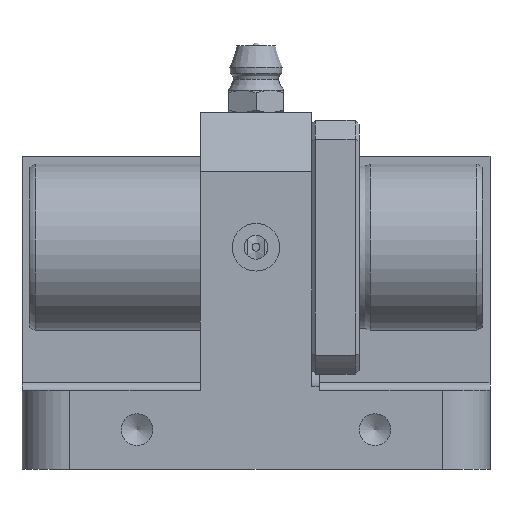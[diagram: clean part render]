
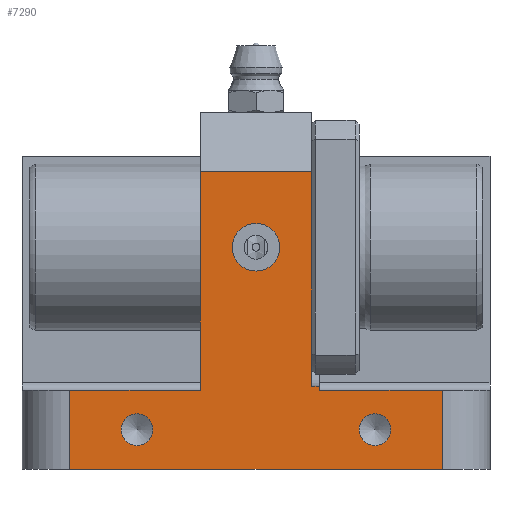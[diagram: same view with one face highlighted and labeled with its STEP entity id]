
A CAD part, front view. The second image highlights one B-rep face of the part: STEP entity #7290.
In plain terms, the highlighted planar face has unit normal (0, -1, 0).
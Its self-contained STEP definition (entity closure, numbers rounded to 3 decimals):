
#7144=CARTESIAN_POINT('',(53.,-47.0,10.0));
#7145=VERTEX_POINT('',#7144);
#7153=CARTESIAN_POINT('',(53.,-47.0,0.0));
#7154=VERTEX_POINT('',#7153);
#7155=CARTESIAN_POINT('',(53.,-47.0,10.0));
#7156=DIRECTION('',(0.0,0.0,-1.0));
#7157=VECTOR('',#7156,10.0);
#7158=LINE('',#7155,#7157);
#7159=EDGE_CURVE('',#7145,#7154,#7158,.T.);
#7179=CARTESIAN_POINT('',(59.0,-47.0,0.0));
#7180=DIRECTION('',(0.0,-1.0,0.0));
#7181=DIRECTION('',(0.0,0.0,-1.0));
#7182=AXIS2_PLACEMENT_3D('',#7179,#7180,#7181);
#7183=PLANE('',#7182);
#7184=ORIENTED_EDGE('',*,*,#7159,.F.);
#7185=CARTESIAN_POINT('',(37.5,-47.,10.0));
#7186=VERTEX_POINT('',#7185);
#7187=CARTESIAN_POINT('',(53.,-47.0,10.0));
#7188=DIRECTION('',(-1.0,0.0,0.0));
#7189=VECTOR('',#7188,15.5);
#7190=LINE('',#7187,#7189);
#7191=EDGE_CURVE('',#7145,#7186,#7190,.T.);
#7192=ORIENTED_EDGE('',*,*,#7191,.T.);
#7193=CARTESIAN_POINT('',(37.5,-47.,10.5));
#7194=VERTEX_POINT('',#7193);
#7195=CARTESIAN_POINT('',(37.5,-47.,10.0));
#7196=DIRECTION('',(0.0,0.0,1.0));
#7197=VECTOR('',#7196,0.5);
#7198=LINE('',#7195,#7197);
#7199=EDGE_CURVE('',#7186,#7194,#7198,.T.);
#7200=ORIENTED_EDGE('',*,*,#7199,.T.);
#7201=CARTESIAN_POINT('',(36.5,-47.,10.5));
#7202=VERTEX_POINT('',#7201);
#7203=CARTESIAN_POINT('',(36.5,-47.,10.5));
#7204=DIRECTION('',(1.0,0.0,0.0));
#7205=VECTOR('',#7204,1.0);
#7206=LINE('',#7203,#7205);
#7207=EDGE_CURVE('',#7202,#7194,#7206,.T.);
#7208=ORIENTED_EDGE('',*,*,#7207,.F.);
#7209=CARTESIAN_POINT('',(36.5,-47.0,37.5));
#7210=VERTEX_POINT('',#7209);
#7211=CARTESIAN_POINT('',(36.5,-47.,10.5));
#7212=DIRECTION('',(0.0,0.0,1.0));
#7213=VECTOR('',#7212,27.);
#7214=LINE('',#7211,#7213);
#7215=EDGE_CURVE('',#7202,#7210,#7214,.T.);
#7216=ORIENTED_EDGE('',*,*,#7215,.T.);
#7217=CARTESIAN_POINT('',(22.5,-47.0,37.5));
#7218=VERTEX_POINT('',#7217);
#7219=CARTESIAN_POINT('',(22.5,-47.0,37.5));
#7220=DIRECTION('',(1.0,0.0,0.0));
#7221=VECTOR('',#7220,14.);
#7222=LINE('',#7219,#7221);
#7223=EDGE_CURVE('',#7218,#7210,#7222,.T.);
#7224=ORIENTED_EDGE('',*,*,#7223,.F.);
#7225=CARTESIAN_POINT('',(22.5,-47.,10.0));
#7226=VERTEX_POINT('',#7225);
#7227=CARTESIAN_POINT('',(22.5,-47.0,37.5));
#7228=DIRECTION('',(0.0,0.0,-1.0));
#7229=VECTOR('',#7228,27.5);
#7230=LINE('',#7227,#7229);
#7231=EDGE_CURVE('',#7218,#7226,#7230,.T.);
#7232=ORIENTED_EDGE('',*,*,#7231,.T.);
#7233=CARTESIAN_POINT('',(6.,-47.0,10.0));
#7234=VERTEX_POINT('',#7233);
#7235=CARTESIAN_POINT('',(22.5,-47.,10.0));
#7236=DIRECTION('',(-1.0,0.0,0.0));
#7237=VECTOR('',#7236,16.5);
#7238=LINE('',#7235,#7237);
#7239=EDGE_CURVE('',#7226,#7234,#7238,.T.);
#7240=ORIENTED_EDGE('',*,*,#7239,.T.);
#7241=CARTESIAN_POINT('',(6.,-47.0,0.0));
#7242=VERTEX_POINT('',#7241);
#7243=CARTESIAN_POINT('',(6.,-47.0,0.0));
#7244=DIRECTION('',(0.0,0.0,1.0));
#7245=VECTOR('',#7244,10.0);
#7246=LINE('',#7243,#7245);
#7247=EDGE_CURVE('',#7242,#7234,#7246,.T.);
#7248=ORIENTED_EDGE('',*,*,#7247,.F.);
#7249=CARTESIAN_POINT('',(6.,-47.0,0.0));
#7250=DIRECTION('',(1.0,0.0,0.0));
#7251=VECTOR('',#7250,47.);
#7252=LINE('',#7249,#7251);
#7253=EDGE_CURVE('',#7242,#7154,#7252,.T.);
#7254=ORIENTED_EDGE('',*,*,#7253,.T.);
#7255=EDGE_LOOP('',(#7184,#7192,#7200,#7208,#7216,#7224,#7232,#7240,#7248,#7254));
#7256=FACE_OUTER_BOUND('',#7255,.T.);
#7257=CARTESIAN_POINT('',(46.5,-47.0,5.));
#7258=VERTEX_POINT('',#7257);
#7259=CARTESIAN_POINT('',(44.5,-47.0,5.));
#7260=DIRECTION('',(0.0,1.0,0.0));
#7261=DIRECTION('',(1.0,0.0,0.0));
#7262=AXIS2_PLACEMENT_3D('',#7259,#7260,#7261);
#7263=CIRCLE('',#7262,2.0);
#7264=EDGE_CURVE('',#7258,#7258,#7263,.T.);
#7265=ORIENTED_EDGE('',*,*,#7264,.T.);
#7266=EDGE_LOOP('',(#7265));
#7267=FACE_BOUND('',#7266,.T.);
#7268=CARTESIAN_POINT('',(16.5,-47.0,5.));
#7269=VERTEX_POINT('',#7268);
#7270=CARTESIAN_POINT('',(14.5,-47.0,5.));
#7271=DIRECTION('',(0.0,1.0,0.0));
#7272=DIRECTION('',(1.0,0.0,0.0));
#7273=AXIS2_PLACEMENT_3D('',#7270,#7271,#7272);
#7274=CIRCLE('',#7273,2.0);
#7275=EDGE_CURVE('',#7269,#7269,#7274,.T.);
#7276=ORIENTED_EDGE('',*,*,#7275,.T.);
#7277=EDGE_LOOP('',(#7276));
#7278=FACE_BOUND('',#7277,.T.);
#7279=CARTESIAN_POINT('',(32.5,-47.0,28.));
#7280=VERTEX_POINT('',#7279);
#7281=CARTESIAN_POINT('',(29.5,-47.0,28.));
#7282=DIRECTION('',(0.0,1.0,0.0));
#7283=DIRECTION('',(1.0,0.0,0.0));
#7284=AXIS2_PLACEMENT_3D('',#7281,#7282,#7283);
#7285=CIRCLE('',#7284,3.);
#7286=EDGE_CURVE('',#7280,#7280,#7285,.T.);
#7287=ORIENTED_EDGE('',*,*,#7286,.T.);
#7288=EDGE_LOOP('',(#7287));
#7289=FACE_BOUND('',#7288,.T.);
#7290=ADVANCED_FACE('',(#7256,#7267,#7278,#7289),#7183,.T.);
